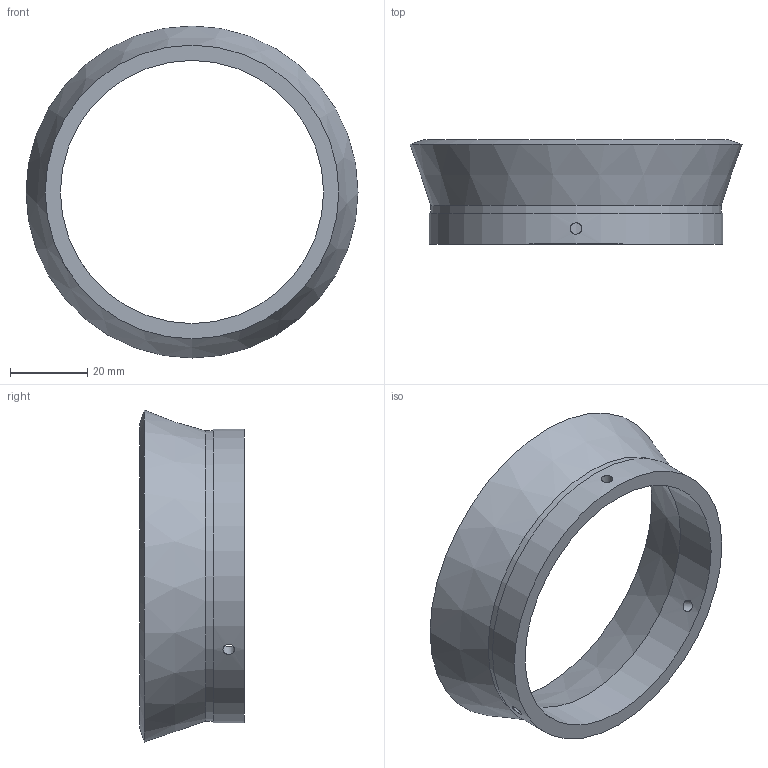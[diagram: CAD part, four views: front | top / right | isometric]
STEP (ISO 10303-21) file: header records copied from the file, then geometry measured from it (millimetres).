
FILE_DESCRIPTION(/* description */ ('STEP AP203'),/* implementation_level */ '2;1');
FILE_NAME(/* name */ 'C:\#Vault-WorkDir\Konstruktions-Dokumente\Projekte\Zubehör allgemein\Falcon Beleuchtungen\153-13550_LM 100 W DF.stp',/* time_stamp */ '2018-07-26T11:22:23+02:00',/* author */ ('SensoPart'),/* organization */ ('SensoPart'),/* preprocessor_version */ 'ST-DEVELOPER v17',/* originating_system */ 'Autodesk Inventor 2018',/* authorisation */ '');
FILE_SCHEMA (('AUTOMOTIVE_DESIGN { 1 0 10303 214 3 1 1 }'));
Length unit declared in the file: millimetre
Products named in the file (1): GH-ENG-0026525
Bounding box: 85.8 x 27 x 85.8 mm (x, y, z)
Volume: 24023 mm3; surface area: 14865.1 mm2
Topology: 1 solids, 1 shells, 11 faces, 41 edges, 30 vertices
Faces by surface type: cylinder 6, cone 3, plane 2
Full cylindrical faces by diameter (mm): 3 x3, 68 x1, 75.003 x1, 75.9 x1
Entity records: 706 total; most frequent: CARTESIAN_POINT 289, ORIENTED_EDGE 82, DIRECTION 67, EDGE_CURVE 41, VERTEX_POINT 30, AXIS2_PLACEMENT_3D 28, EDGE_LOOP 17, CIRCLE 16
